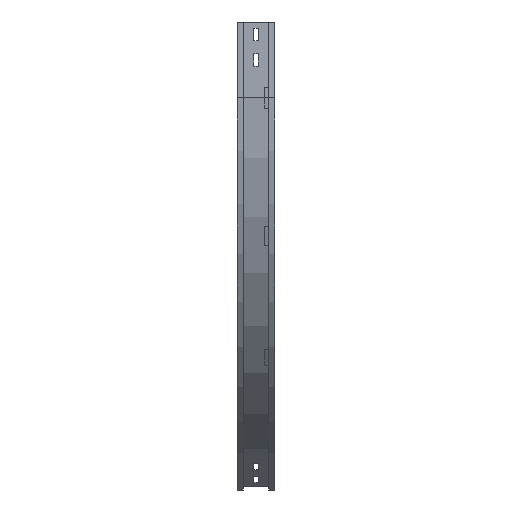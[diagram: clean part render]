
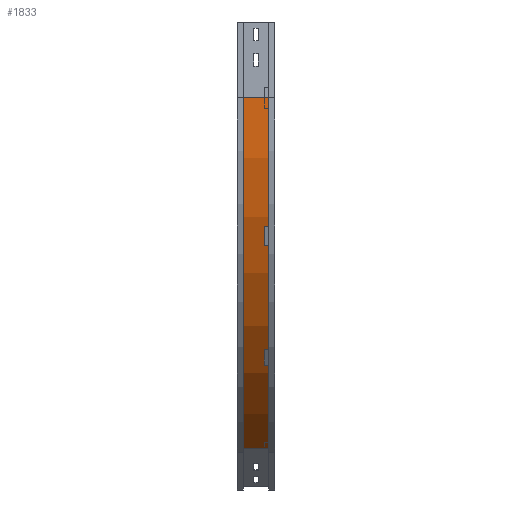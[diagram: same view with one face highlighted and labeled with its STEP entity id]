
A CAD part, left-side view. The second image highlights one B-rep face of the part: STEP entity #1833.
In plain terms, the highlighted cylindrical face has radius 800 mm (diameter 1600 mm), a partial arc.
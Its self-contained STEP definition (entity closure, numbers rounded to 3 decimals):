
#70 = CARTESIAN_POINT ( 'NONE',  ( 409., 12., -842.82 ) ) ;
#98 = CARTESIAN_POINT ( 'NONE',  ( 809., 12., -150. ) ) ;
#186 = DIRECTION ( 'NONE',  ( 0., -1., 0. ) ) ;
#194 = DIRECTION ( 'NONE',  ( 0., 0., -1. ) ) ;
#389 = ORIENTED_EDGE ( 'NONE', *, *, #3193, .T. ) ;
#404 = VERTEX_POINT ( 'NONE', #2838 ) ;
#526 = CIRCLE ( 'NONE', #3073, 800. ) ;
#537 = VECTOR ( 'NONE', #1636, 1000. ) ;
#610 = EDGE_CURVE ( 'NONE', #3021, #3259, #526, .T. ) ;
#634 = CYLINDRICAL_SURFACE ( 'NONE', #1748, 800. ) ;
#699 = CARTESIAN_POINT ( 'NONE',  ( 809., 63., -150. ) ) ;
#895 = CARTESIAN_POINT ( 'NONE',  ( 9., 12., -150. ) ) ;
#927 = ORIENTED_EDGE ( 'NONE', *, *, #610, .F. ) ;
#1092 = LINE ( 'NONE', #895, #537 ) ;
#1151 = DIRECTION ( 'NONE',  ( -1., 0., 0. ) ) ;
#1305 = CIRCLE ( 'NONE', #1803, 800. ) ;
#1451 = FACE_OUTER_BOUND ( 'NONE', #1620, .T. ) ;
#1507 = EDGE_CURVE ( 'NONE', #404, #2320, #1305, .T. ) ;
#1620 = EDGE_LOOP ( 'NONE', ( #927, #3191, #2901, #389 ) ) ;
#1636 = DIRECTION ( 'NONE',  ( 0., -1., 0. ) ) ;
#1658 = CARTESIAN_POINT ( 'NONE',  ( 409., 12., -842.82 ) ) ;
#1735 = DIRECTION ( 'NONE',  ( -1., 0., 0. ) ) ;
#1748 = AXIS2_PLACEMENT_3D ( 'NONE', #3342, #3069, #194 ) ;
#1769 = CARTESIAN_POINT ( 'NONE',  ( 9., 12., -150. ) ) ;
#1803 = AXIS2_PLACEMENT_3D ( 'NONE', #699, #186, #1735 ) ;
#1833 = ADVANCED_FACE ( 'NONE', ( #1451 ), #634, .T. ) ;
#2320 = VERTEX_POINT ( 'NONE', #3326 ) ;
#2435 = LINE ( 'NONE', #70, #2796 ) ;
#2720 = DIRECTION ( 'NONE',  ( 0., -1., 0. ) ) ;
#2752 = DIRECTION ( 'NONE',  ( 0., -1., 0. ) ) ;
#2796 = VECTOR ( 'NONE', #2752, 1000. ) ;
#2838 = CARTESIAN_POINT ( 'NONE',  ( 9., 63., -150. ) ) ;
#2901 = ORIENTED_EDGE ( 'NONE', *, *, #1507, .T. ) ;
#3021 = VERTEX_POINT ( 'NONE', #1769 ) ;
#3069 = DIRECTION ( 'NONE',  ( 0., -1., 0. ) ) ;
#3073 = AXIS2_PLACEMENT_3D ( 'NONE', #98, #2720, #1151 ) ;
#3191 = ORIENTED_EDGE ( 'NONE', *, *, #3234, .F. ) ;
#3193 = EDGE_CURVE ( 'NONE', #2320, #3259, #2435, .T. ) ;
#3234 = EDGE_CURVE ( 'NONE', #404, #3021, #1092, .T. ) ;
#3259 = VERTEX_POINT ( 'NONE', #1658 ) ;
#3326 = CARTESIAN_POINT ( 'NONE',  ( 409., 63., -842.82 ) ) ;
#3342 = CARTESIAN_POINT ( 'NONE',  ( 809., 0., -150. ) ) ;
